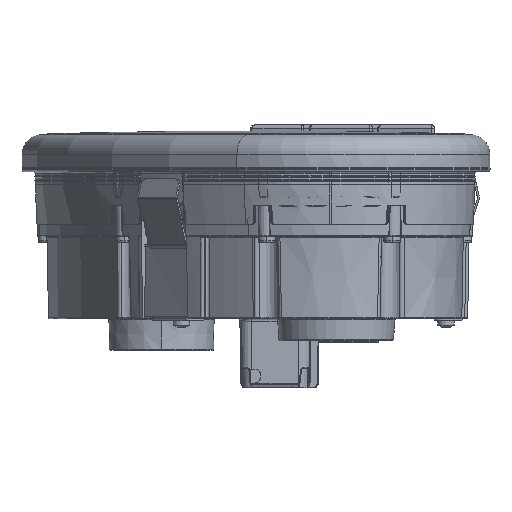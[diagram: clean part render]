
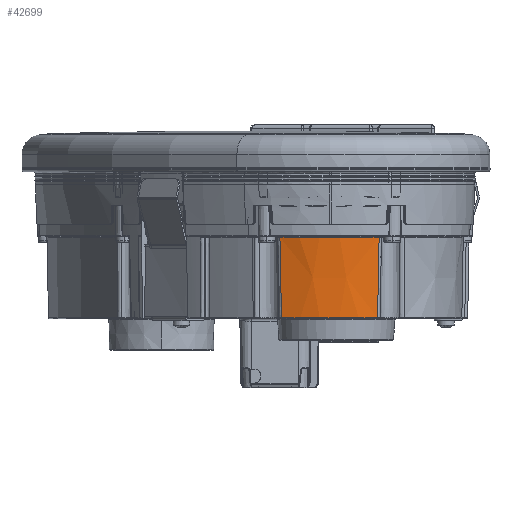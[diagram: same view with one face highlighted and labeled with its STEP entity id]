
A CAD part, left-side view. The second image highlights one B-rep face of the part: STEP entity #42699.
In plain terms, the highlighted conical face has half-angle 1 degrees and reference radius 33.982 mm.
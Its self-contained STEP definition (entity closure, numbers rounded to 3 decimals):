
#3353=CARTESIAN_POINT('',(-104.995,-12.275,
-12.254));
#3376=CARTESIAN_POINT('',(-104.995,12.275,
-12.254));
#6866=CARTESIAN_POINT('',(-73.5,0.,8.303));
#6867=DIRECTION('',(0.,0.,1.));
#6868=DIRECTION('',(-0.929,0.371,0.));
#6869=AXIS2_PLACEMENT_3D('',#6866,#6867,#6868);
#6957=CARTESIAN_POINT('',(-105.226,12.668,8.303));
#6958=CARTESIAN_POINT('',(-105.207,12.635,6.59));
#6959=CARTESIAN_POINT('',(-105.169,12.57,3.164));
#6960=CARTESIAN_POINT('',(-105.111,12.471,
-1.975));
#6961=CARTESIAN_POINT('',(-105.053,12.373,
-7.115));
#6962=CARTESIAN_POINT('',(-105.015,12.308,
-10.541));
#6963=CARTESIAN_POINT('',(-104.995,12.275,
-12.254));
#6965=CARTESIAN_POINT('',(-104.995,-12.275,
-12.254));
#6966=CARTESIAN_POINT('',(-105.015,-12.308,
-10.541));
#6967=CARTESIAN_POINT('',(-105.053,-12.373,
-7.115));
#6968=CARTESIAN_POINT('',(-105.111,-12.471,
-1.975));
#6969=CARTESIAN_POINT('',(-105.169,-12.569,
3.164));
#6970=CARTESIAN_POINT('',(-105.207,-12.635,
6.59));
#6971=CARTESIAN_POINT('',(-105.226,-12.668,
8.303));
#6973=CARTESIAN_POINT('',(-73.5,0.,-12.254));
#6974=DIRECTION('',(0.,0.,1.));
#6975=DIRECTION('',(-0.932,0.363,0.));
#6976=AXIS2_PLACEMENT_3D('',#6973,#6974,#6975);
#21296=VERTEX_POINT('',#3353);
#21302=VERTEX_POINT('',#3376);
#21312=VERTEX_POINT('',#6957);
#21313=VERTEX_POINT('',#6971);
#42688=CARTESIAN_POINT('',(-73.5,0.,-1.975));
#42689=DIRECTION('',(0.,0.,1.));
#42690=DIRECTION('',(-0.929,0.371,0.));
#42691=AXIS2_PLACEMENT_3D('',#42688,#42689,#42690);
#42692=CONICAL_SURFACE('',#42691,33.982,1.);
#42693=ORIENTED_EDGE('',*,*,#27927,.F.);
#42694=ORIENTED_EDGE('',*,*,#42310,.T.);
#42695=ORIENTED_EDGE('',*,*,#27618,.F.);
#42696=ORIENTED_EDGE('',*,*,#27760,.F.);
#42697=EDGE_LOOP('',(#42693,#42694,#42695,#42696));
#42698=FACE_OUTER_BOUND('',#42697,.F.);
#42699=ADVANCED_FACE('',(#42698),#42692,.T.);
#6870=CIRCLE('',#6869,34.162);
#6964=B_SPLINE_CURVE_WITH_KNOTS('',3,(#6957,#6958,#6959,#6960,#6961,#6962,
#6963),.UNSPECIFIED.,.F.,.F.,(4,1,1,1,4),(0.,0.25,0.5,0.75,1.),
.UNSPECIFIED.);
#6972=B_SPLINE_CURVE_WITH_KNOTS('',3,(#6965,#6966,#6967,#6968,#6969,#6970,
#6971),.UNSPECIFIED.,.F.,.F.,(4,1,1,1,4),(0.,0.25,0.5,0.75,1.),
.UNSPECIFIED.);
#6977=CIRCLE('',#6976,33.803);
#27618=EDGE_CURVE('',#21296,#21313,#6972,.T.);
#27760=EDGE_CURVE('',#21302,#21296,#6977,.T.);
#27927=EDGE_CURVE('',#21312,#21302,#6964,.T.);
#42310=EDGE_CURVE('',#21312,#21313,#6870,.T.);
